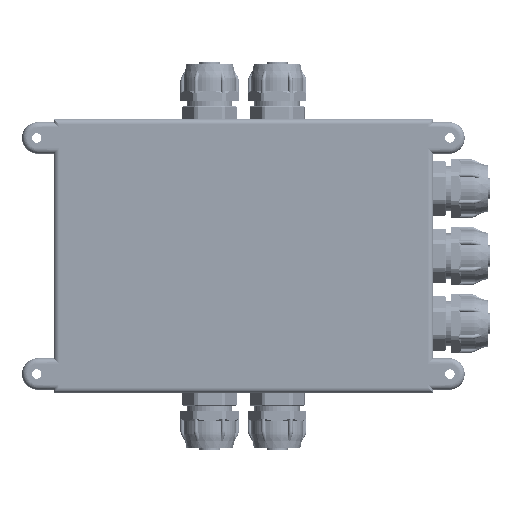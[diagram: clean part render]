
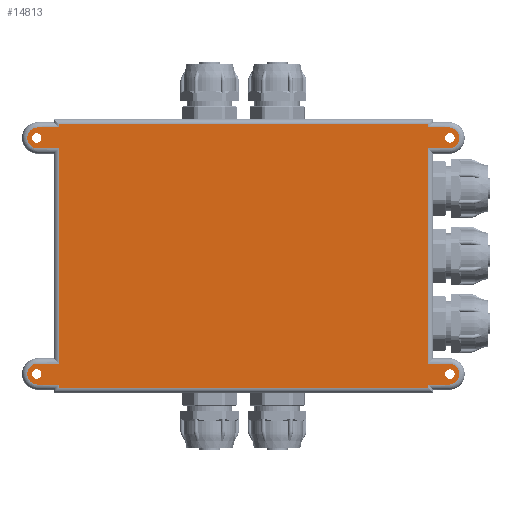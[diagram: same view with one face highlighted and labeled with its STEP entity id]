
A CAD part, front view. The second image highlights one B-rep face of the part: STEP entity #14813.
In plain terms, the highlighted planar face has unit normal (0, -1, 0).
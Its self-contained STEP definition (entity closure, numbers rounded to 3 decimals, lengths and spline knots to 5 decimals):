
#14813=ADVANCED_FACE('109:176',(#26747,#26748,#26749,#26750,#26751),#26752,.F.);
#26747=FACE_OUTER_BOUND('',#43979,.T.);
#26748=FACE_BOUND('',#43980,.T.);
#26749=FACE_BOUND('',#43981,.T.);
#26750=FACE_BOUND('',#43982,.T.);
#26751=FACE_BOUND('',#43983,.T.);
#26752=PLANE('',#43984);
#43979=EDGE_LOOP('',(#68770,#68771,#68772,#68773,#68774,#68775,#68776,#68777,#68778,#68779,#68780,#68781,#68782,#68783,#68784,#68785,#68786,#68787,#68788,#68789));
#43980=EDGE_LOOP('',(#68790,#68791));
#43981=EDGE_LOOP('',(#68792,#68793));
#43982=EDGE_LOOP('',(#68794,#68795));
#43983=EDGE_LOOP('',(#68796,#68797));
#43984=AXIS2_PLACEMENT_3D('',#68798,#68799,#68800);
#68770=ORIENTED_EDGE('',*,*,#82651,.F.);
#68771=ORIENTED_EDGE('',*,*,#82648,.F.);
#68772=ORIENTED_EDGE('',*,*,#82799,.T.);
#68773=ORIENTED_EDGE('',*,*,#82781,.F.);
#68774=ORIENTED_EDGE('',*,*,#82640,.F.);
#68775=ORIENTED_EDGE('',*,*,#82800,.T.);
#68776=ORIENTED_EDGE('',*,*,#82801,.T.);
#68777=ORIENTED_EDGE('',*,*,#82775,.F.);
#68778=ORIENTED_EDGE('',*,*,#82597,.F.);
#68779=ORIENTED_EDGE('',*,*,#82634,.F.);
#68780=ORIENTED_EDGE('',*,*,#82631,.F.);
#68781=ORIENTED_EDGE('',*,*,#82628,.F.);
#68782=ORIENTED_EDGE('',*,*,#82802,.T.);
#68783=ORIENTED_EDGE('',*,*,#82787,.F.);
#68784=ORIENTED_EDGE('',*,*,#82620,.F.);
#68785=ORIENTED_EDGE('',*,*,#82803,.T.);
#68786=ORIENTED_EDGE('',*,*,#82804,.T.);
#68787=ORIENTED_EDGE('',*,*,#82793,.F.);
#68788=ORIENTED_EDGE('',*,*,#82609,.F.);
#68789=ORIENTED_EDGE('',*,*,#82805,.T.);
#68790=ORIENTED_EDGE('',*,*,#82806,.T.);
#68791=ORIENTED_EDGE('',*,*,#82588,.T.);
#68792=ORIENTED_EDGE('',*,*,#82807,.T.);
#68793=ORIENTED_EDGE('',*,*,#82584,.T.);
#68794=ORIENTED_EDGE('',*,*,#82808,.T.);
#68795=ORIENTED_EDGE('',*,*,#82580,.T.);
#68796=ORIENTED_EDGE('',*,*,#82809,.T.);
#68797=ORIENTED_EDGE('',*,*,#82592,.T.);
#68798=CARTESIAN_POINT('',(0.0,0.0,0.0));
#68799=DIRECTION('',(0.0,1.0,0.0));
#68800=DIRECTION('',(0.0,0.0,1.0));
#82580=EDGE_CURVE('136:63',#100720,#100717,#100721,.T.);
#82584=EDGE_CURVE('136:690',#100728,#100725,#100729,.T.);
#82588=EDGE_CURVE('136:1299',#100736,#100733,#100737,.T.);
#82592=EDGE_CURVE('136:1914',#100744,#100741,#100745,.T.);
#82597=EDGE_CURVE('139:2306',#100752,#100754,#100755,.T.);
#82609=EDGE_CURVE('139:2264',#100775,#100777,#100778,.T.);
#82620=EDGE_CURVE('139:2282',#100795,#100797,#100798,.T.);
#82628=EDGE_CURVE('139:6897',#100810,#100812,#100813,.T.);
#82631=EDGE_CURVE('139:6990',#100812,#100817,#100818,.T.);
#82634=EDGE_CURVE('139:2288',#100817,#100752,#100821,.T.);
#82640=EDGE_CURVE('139:7291',#100829,#100831,#100832,.T.);
#82648=EDGE_CURVE('139:2216',#100844,#100846,#100847,.T.);
#82651=EDGE_CURVE('139:2210',#100846,#100850,#100851,.T.);
#82775=EDGE_CURVE('139:2300',#100754,#101057,#101058,.T.);
#82781=EDGE_CURVE('139:7285',#100831,#101066,#101067,.T.);
#82787=EDGE_CURVE('139:2276',#100797,#101075,#101076,.T.);
#82793=EDGE_CURVE('139:2258',#100777,#101084,#101085,.T.);
#82799=EDGE_CURVE('139:2312',#100844,#101066,#101092,.T.);
#82800=EDGE_CURVE('139:2222',#100829,#101093,#101094,.T.);
#82801=EDGE_CURVE('139:2294',#101093,#101057,#101095,.T.);
#82802=EDGE_CURVE('139:2270',#100810,#101075,#101096,.T.);
#82803=EDGE_CURVE('139:2240',#100795,#101097,#101098,.T.);
#82804=EDGE_CURVE('139:2252',#101097,#101084,#101099,.T.);
#82805=EDGE_CURVE('139:2246',#100775,#100850,#101100,.T.);
#82806=EDGE_CURVE('136:1299',#100733,#100736,#101101,.T.);
#82807=EDGE_CURVE('136:690',#100725,#100728,#101102,.T.);
#82808=EDGE_CURVE('136:63',#100717,#100720,#101103,.T.);
#82809=EDGE_CURVE('136:1914',#100741,#100744,#101104,.T.);
#100717=VERTEX_POINT('',#121363);
#100720=VERTEX_POINT('',#121367);
#100721=CIRCLE('',#121368,0.00225);
#100725=VERTEX_POINT('',#121373);
#100728=VERTEX_POINT('',#121377);
#100729=CIRCLE('',#121378,0.00225);
#100733=VERTEX_POINT('',#121383);
#100736=VERTEX_POINT('',#121387);
#100737=CIRCLE('',#121388,0.00225);
#100741=VERTEX_POINT('',#121393);
#100744=VERTEX_POINT('',#121397);
#100745=CIRCLE('',#121398,0.00225);
#100752=VERTEX_POINT('',#121407);
#100754=VERTEX_POINT('',#121409);
#100755=LINE('',#121410,#121411);
#100775=VERTEX_POINT('',#121436);
#100777=VERTEX_POINT('',#121438);
#100778=LINE('',#121439,#121440);
#100795=VERTEX_POINT('',#121462);
#100797=VERTEX_POINT('',#121464);
#100798=LINE('',#121465,#121466);
#100810=VERTEX_POINT('',#121481);
#100812=VERTEX_POINT('',#121483);
#100813=LINE('',#121484,#121485);
#100817=VERTEX_POINT('',#121490);
#100818=LINE('',#121491,#121492);
#100821=LINE('',#121496,#121497);
#100829=VERTEX_POINT('',#121508);
#100831=VERTEX_POINT('',#121510);
#100832=LINE('',#121511,#121512);
#100844=VERTEX_POINT('',#121527);
#100846=VERTEX_POINT('',#121529);
#100847=LINE('',#121530,#121531);
#100850=VERTEX_POINT('',#121535);
#100851=LINE('',#121536,#121537);
#101057=VERTEX_POINT('',#121795);
#101058=CIRCLE('',#121796,0.005);
#101066=VERTEX_POINT('',#121805);
#101067=CIRCLE('',#121806,0.005);
#101075=VERTEX_POINT('',#121815);
#101076=CIRCLE('',#121816,0.005);
#101084=VERTEX_POINT('',#121825);
#101085=CIRCLE('',#121826,0.005);
#101092=LINE('',#121834,#121835);
#101093=VERTEX_POINT('',#121836);
#101094=LINE('',#121837,#121838);
#101095=LINE('',#121839,#121840);
#101096=LINE('',#121841,#121842);
#101097=VERTEX_POINT('',#121843);
#101098=LINE('',#121844,#121845);
#101099=LINE('',#121846,#121847);
#101100=LINE('',#121848,#121849);
#101101=CIRCLE('',#121850,0.00225);
#101102=CIRCLE('',#121851,0.00225);
#101103=CIRCLE('',#121852,0.00225);
#101104=CIRCLE('',#121853,0.00225);
#121363=CARTESIAN_POINT('',(0.10025,0.0,0.056));
#121367=CARTESIAN_POINT('',(0.09575,0.0,0.056));
#121368=AXIS2_PLACEMENT_3D('',#132390,#132391,#132392);
#121373=CARTESIAN_POINT('',(0.10025,0.0,-0.056));
#121377=CARTESIAN_POINT('',(0.09575,0.0,-0.056));
#121378=AXIS2_PLACEMENT_3D('',#132398,#132399,#132400);
#121383=CARTESIAN_POINT('',(-0.10025,0.0,0.056));
#121387=CARTESIAN_POINT('',(-0.09575,0.0,0.056));
#121388=AXIS2_PLACEMENT_3D('',#132406,#132407,#132408);
#121393=CARTESIAN_POINT('',(-0.10025,0.0,-0.056));
#121397=CARTESIAN_POINT('',(-0.09575,0.0,-0.056));
#121398=AXIS2_PLACEMENT_3D('',#132414,#132415,#132416);
#121407=CARTESIAN_POINT('',(-0.0875,0.0,-0.061));
#121409=CARTESIAN_POINT('',(-0.0975,0.0,-0.061));
#121410=CARTESIAN_POINT('',(-0.04712,0.0,-0.061));
#121411=VECTOR('',#132425,1.0);
#121436=CARTESIAN_POINT('',(0.0875,0.0,0.061));
#121438=CARTESIAN_POINT('',(0.0975,0.0,0.061));
#121439=CARTESIAN_POINT('',(0.04713,0.0,0.061));
#121440=VECTOR('',#132449,1.0);
#121462=CARTESIAN_POINT('',(0.0875,0.0,-0.051));
#121464=CARTESIAN_POINT('',(0.0975,0.0,-0.051));
#121465=CARTESIAN_POINT('',(0.04713,0.0,-0.051));
#121466=VECTOR('',#132470,1.0);
#121481=CARTESIAN_POINT('',(0.0875,0.0,-0.061));
#121483=CARTESIAN_POINT('',(0.0875,0.0,-0.0625));
#121484=CARTESIAN_POINT('',(0.0875,0.0,0.0));
#121485=VECTOR('',#132486,1.0);
#121490=CARTESIAN_POINT('',(-0.0875,0.0,-0.0625));
#121491=CARTESIAN_POINT('',(0.0,0.0,-0.0625));
#121492=VECTOR('',#132491,1.0);
#121496=CARTESIAN_POINT('',(-0.0875,0.0,0.0));
#121497=VECTOR('',#132496,1.0);
#121508=CARTESIAN_POINT('',(-0.0875,0.0,0.051));
#121510=CARTESIAN_POINT('',(-0.0975,0.0,0.051));
#121511=CARTESIAN_POINT('',(-0.04713,0.0,0.051));
#121512=VECTOR('',#132506,1.0);
#121527=CARTESIAN_POINT('',(-0.0875,0.0,0.061));
#121529=CARTESIAN_POINT('',(-0.0875,0.0,0.0625));
#121530=CARTESIAN_POINT('',(-0.0875,0.0,0.0));
#121531=VECTOR('',#132522,1.0);
#121535=CARTESIAN_POINT('',(0.0875,0.0,0.0625));
#121536=CARTESIAN_POINT('',(0.0,0.0,0.0625));
#121537=VECTOR('',#132527,1.0);
#121795=CARTESIAN_POINT('',(-0.0975,0.0,-0.051));
#121796=AXIS2_PLACEMENT_3D('',#132793,#132794,#132795);
#121805=CARTESIAN_POINT('',(-0.0975,0.0,0.061));
#121806=AXIS2_PLACEMENT_3D('',#132809,#132810,#132811);
#121815=CARTESIAN_POINT('',(0.0975,0.0,-0.061));
#121816=AXIS2_PLACEMENT_3D('',#132825,#132826,#132827);
#121825=CARTESIAN_POINT('',(0.0975,0.0,0.051));
#121826=AXIS2_PLACEMENT_3D('',#132841,#132842,#132843);
#121834=CARTESIAN_POINT('',(-0.04713,0.0,0.061));
#121835=VECTOR('',#132857,1.0);
#121836=CARTESIAN_POINT('',(-0.0875,0.0,-0.051));
#121837=CARTESIAN_POINT('',(-0.0875,0.0,0.0));
#121838=VECTOR('',#132858,1.0);
#121839=CARTESIAN_POINT('',(-0.04712,0.0,-0.051));
#121840=VECTOR('',#132859,1.0);
#121841=CARTESIAN_POINT('',(0.04713,0.0,-0.061));
#121842=VECTOR('',#132860,1.0);
#121843=CARTESIAN_POINT('',(0.0875,0.0,0.051));
#121844=CARTESIAN_POINT('',(0.0875,0.0,0.0));
#121845=VECTOR('',#132861,1.0);
#121846=CARTESIAN_POINT('',(0.04713,0.0,0.051));
#121847=VECTOR('',#132862,1.0);
#121848=CARTESIAN_POINT('',(0.0875,0.0,0.0));
#121849=VECTOR('',#132863,1.0);
#121850=AXIS2_PLACEMENT_3D('',#132864,#132865,#132866);
#121851=AXIS2_PLACEMENT_3D('',#132867,#132868,#132869);
#121852=AXIS2_PLACEMENT_3D('',#132870,#132871,#132872);
#121853=AXIS2_PLACEMENT_3D('',#132873,#132874,#132875);
#132390=CARTESIAN_POINT('',(0.098,0.0,0.056));
#132391=DIRECTION('',(-0.0,1.0,0.0));
#132392=DIRECTION('',(1.0,0.0,0.0));
#132398=CARTESIAN_POINT('',(0.098,0.0,-0.056));
#132399=DIRECTION('',(-0.0,1.0,0.0));
#132400=DIRECTION('',(1.0,0.0,0.0));
#132406=CARTESIAN_POINT('',(-0.098,0.0,0.056));
#132407=DIRECTION('',(0.0,1.0,0.0));
#132408=DIRECTION('',(-1.0,0.0,0.));
#132414=CARTESIAN_POINT('',(-0.098,0.0,-0.056));
#132415=DIRECTION('',(0.0,1.0,0.0));
#132416=DIRECTION('',(-1.0,0.0,0.));
#132425=DIRECTION('',(-1.0,0.0,0.));
#132449=DIRECTION('',(1.0,0.0,0.0));
#132470=DIRECTION('',(1.0,0.0,0.0));
#132486=DIRECTION('',(0.0,0.0,-1.0));
#132491=DIRECTION('',(-1.0,0.0,0.0));
#132496=DIRECTION('',(0.0,0.0,1.0));
#132506=DIRECTION('',(-1.0,0.0,0.));
#132522=DIRECTION('',(0.0,0.0,1.0));
#132527=DIRECTION('',(1.0,0.0,0.0));
#132793=CARTESIAN_POINT('',(-0.0975,0.0,-0.056));
#132794=DIRECTION('',(0.0,1.0,0.0));
#132795=DIRECTION('',(-1.0,0.0,0.));
#132809=CARTESIAN_POINT('',(-0.0975,0.0,0.056));
#132810=DIRECTION('',(0.0,1.0,0.0));
#132811=DIRECTION('',(-1.0,0.0,0.));
#132825=CARTESIAN_POINT('',(0.0975,0.0,-0.056));
#132826=DIRECTION('',(-0.0,1.0,0.0));
#132827=DIRECTION('',(1.0,0.0,0.0));
#132841=CARTESIAN_POINT('',(0.0975,0.0,0.056));
#132842=DIRECTION('',(-0.0,1.0,0.0));
#132843=DIRECTION('',(1.0,0.0,0.0));
#132857=DIRECTION('',(-1.0,0.0,0.));
#132858=DIRECTION('',(0.0,0.0,-1.0));
#132859=DIRECTION('',(-1.0,0.0,0.));
#132860=DIRECTION('',(1.0,-0.0,0.0));
#132861=DIRECTION('',(0.0,0.0,1.0));
#132862=DIRECTION('',(1.0,-0.0,0.0));
#132863=DIRECTION('',(0.0,0.0,1.0));
#132864=CARTESIAN_POINT('',(-0.098,0.0,0.056));
#132865=DIRECTION('',(0.0,1.0,0.0));
#132866=DIRECTION('',(-1.0,0.0,0.));
#132867=CARTESIAN_POINT('',(0.098,0.0,-0.056));
#132868=DIRECTION('',(-0.0,1.0,0.0));
#132869=DIRECTION('',(1.0,0.0,0.0));
#132870=CARTESIAN_POINT('',(0.098,0.0,0.056));
#132871=DIRECTION('',(-0.0,1.0,0.0));
#132872=DIRECTION('',(1.0,0.0,0.0));
#132873=CARTESIAN_POINT('',(-0.098,0.0,-0.056));
#132874=DIRECTION('',(0.0,1.0,0.0));
#132875=DIRECTION('',(-1.0,0.0,0.));
